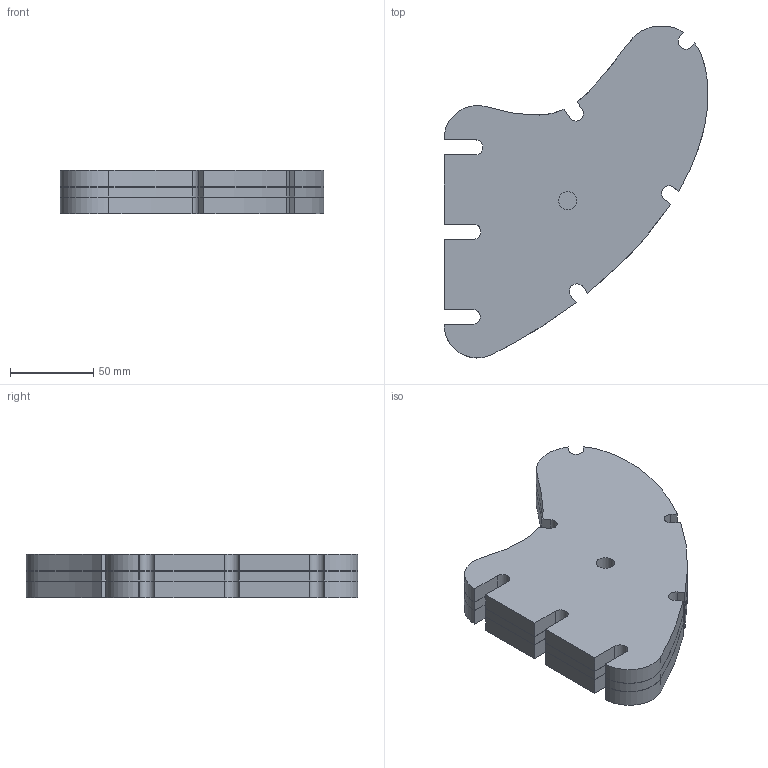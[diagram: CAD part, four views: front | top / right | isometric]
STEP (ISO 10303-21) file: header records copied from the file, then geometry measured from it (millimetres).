
FILE_DESCRIPTION(/* description */ (''),/* implementation_level */ '2;1');
FILE_NAME(/* name */ 'Surf fins.step',/* time_stamp */ '2023-10-17T11:16:17+02:00',/* author */ (''),/* organization */ (''),/* preprocessor_version */ 'ST-DEVELOPER v20',/* originating_system */ 'Autodesk Translation Framework v12.14.0.127',/* authorisation */ '');
FILE_SCHEMA (('AUTOMOTIVE_DESIGN { 1 0 10303 214 3 1 1 }'));
Length unit declared in the file: millimetre
Products named in the file (1): (Sin guardar)
Bounding box: 158.44 x 199.31 x 26.18 mm (x, y, z)
Volume: 417317 mm3; surface area: 113795.6 mm2
Topology: 3 solids, 3 shells, 113 faces, 321 edges, 214 vertices
Faces by surface type: plane 69, cylinder 28, bspline 16
Full cylindrical faces by diameter (mm): 11 x1
Entity records: 4526 total; most frequent: CARTESIAN_POINT 1597, ORIENTED_EDGE 642, DIRECTION 541, EDGE_CURVE 321, LINE 233, VECTOR 233, VERTEX_POINT 214, AXIS2_PLACEMENT_3D 154
